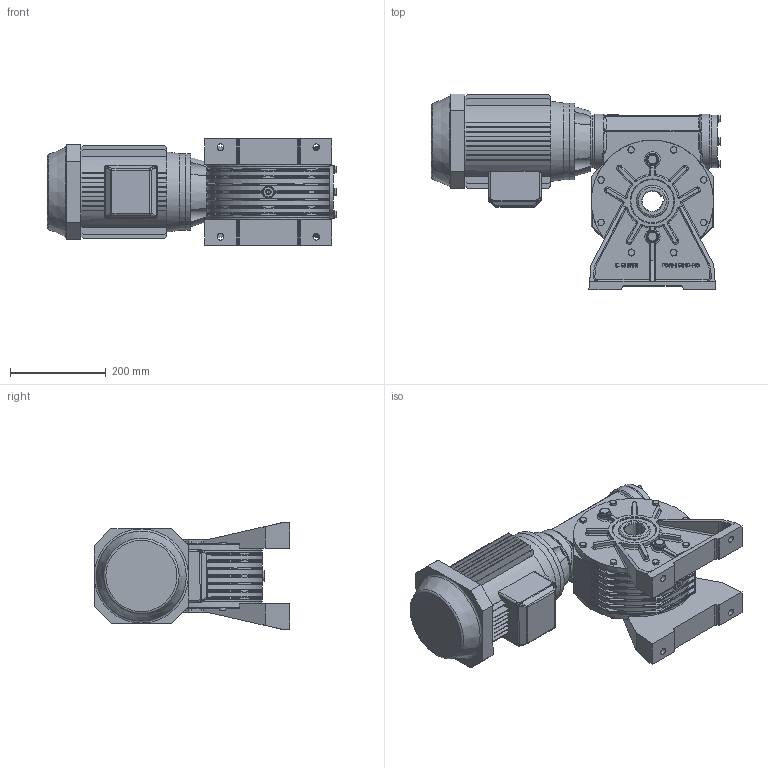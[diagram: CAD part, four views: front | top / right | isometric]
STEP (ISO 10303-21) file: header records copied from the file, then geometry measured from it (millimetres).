
FILE_DESCRIPTION((''),'2;1');
FILE_NAME('Y:\Archivi Inventor\Prog_01\GRAND_60\FIGURINI\MRV60 sito\100L\MRV60_P2_100L_B14.stp','2013-02-08T14:25:16',('tech3'),(''),'Autodesk Inventor 2013','Autodesk Inventor 2013','');
FILE_SCHEMA(('AUTOMOTIVE_DESIGN { 1 0 10303 214 1 1 1 1 }'));
Length unit declared in the file: millimetre
Products named in the file (18): MRV60_100L_112M_B14; MRV60_FIG; 0106001.A0 figurino; 0106010.A0 figurino; 0106009; UNI 5739 M8 x 20; figurino corona; PARAOLIO 65x90x10; 0106028; 0106029; UNI 5739 M8 x 25; Guarnizione 3_8 GAS; Tappo3_8 GAS; Tappo 3_8 GAS_esagn_incsst; DIN EN ISO 4762 M8 x 16; UNI 8839 A 8; 0106006; motori B14 100
Assembly tree (53 placements, depth 3):
  MRV60_100L_112M_B14
    MRV60_FIG
      0106001.A0 figurino
      0106010.A0 figurino  x2
      0106009
      UNI 5739 M8 x 20  x4
      figurino corona
      PARAOLIO 65x90x10  x2
      0106028
      0106029  x2
      UNI 5739 M8 x 25  x8
      Guarnizione 3_8 GAS  x6
      Tappo3_8 GAS  x4
      Tappo 3_8 GAS_esagn_incsst  x2
      DIN EN ISO 4762 M8 x 16  x12
      UNI 8839 A 8  x4
    0106006
    motori B14 100
Bounding box: 603.35 x 408.75 x 221.7 mm (x, y, z)
Volume: 16128086.5 mm3; surface area: 1461249.8 mm2
Topology: 52 solids, 56 shells, 2620 faces, 6502 edges, 4028 vertices
Faces by surface type: plane 1111, cylinder 610, bspline 564, cone 162, torus 125, sphere 48
Full cylindrical faces by diameter (mm): 2 x2, 6.647 x28, 8 x26, 8.5 x40, 8.75 x4, 9 x4, 11.63 x12, 13 x12, 13.046 x4, 14 x4, 14.95 x6, 16.3 x6, 16.5 x2, 22 x12, 25 x6, 28 x1, 42 x1, 65 x2, 70 x1, 72.881 x2, 80 x5, 83.5 x2, 90 x5, 109 x1, 109.5 x1, 110 x6, 114 x2, 114.4 x1, 160 x2, 216 x2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
Entity records: 57452 total; most frequent: CARTESIAN_POINT 19826, ORIENTED_EDGE 7680, DIRECTION 6939, EDGE_CURVE 3840, AXIS2_PLACEMENT_3D 2528, VERTEX_POINT 2497, EDGE_LOOP 1951, VECTOR 1883
